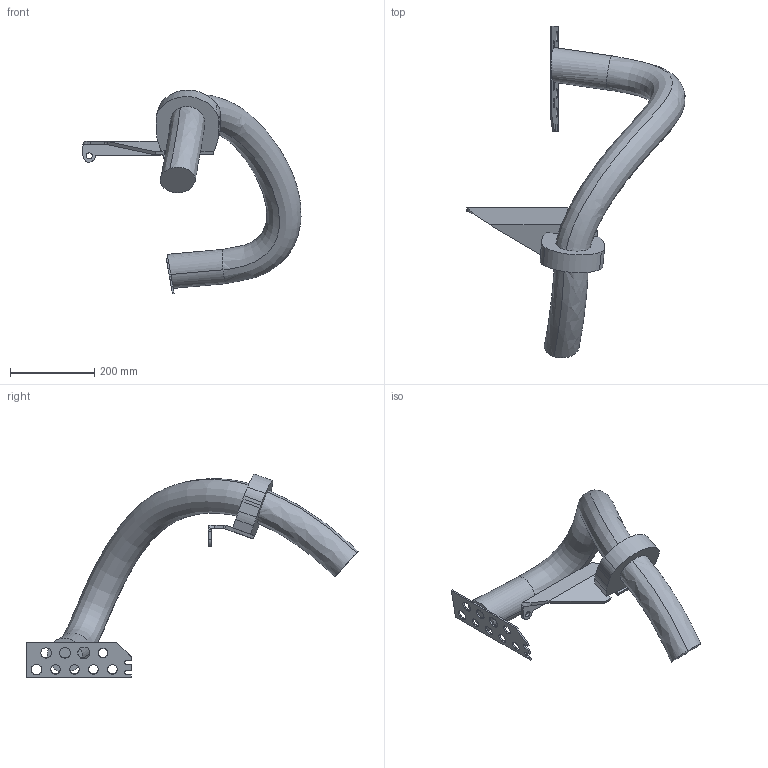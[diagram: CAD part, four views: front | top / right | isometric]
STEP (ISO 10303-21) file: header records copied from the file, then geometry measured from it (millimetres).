
FILE_DESCRIPTION (( 'STEP AP203' ), '1' );
FILE_NAME ('IRB8700-SW6_800-350_IRC5_rev00_LINK3_CABLE2.STEP', '2015-06-05T09:03:29', ( 'ABB' ), ( 'ABB' ), 'SwSTEP 2.0', 'SolidWorks 2014', '' );
FILE_SCHEMA (( 'CONFIG_CONTROL_DESIGN' ));
Length unit declared in the file: millimetre
Products named in the file (1): IRB8700-SW6_800-350_IRC5_rev00_LINK3_CABLE2
Bounding box: 517.62 x 787.76 x 483.46 mm (x, y, z)
Volume: 7013649.1 mm3; surface area: 431971.6 mm2
Topology: 1 solids, 1 shells, 106 faces, 297 edges, 194 vertices
Faces by surface type: plane 55, cylinder 39, bspline 12
Entity records: 33458 total; most frequent: CARTESIAN_POINT 30660, ORIENTED_EDGE 594, DIRECTION 525, EDGE_CURVE 297, VERTEX_POINT 194, AXIS2_PLACEMENT_3D 181, LINE 163, VECTOR 163
